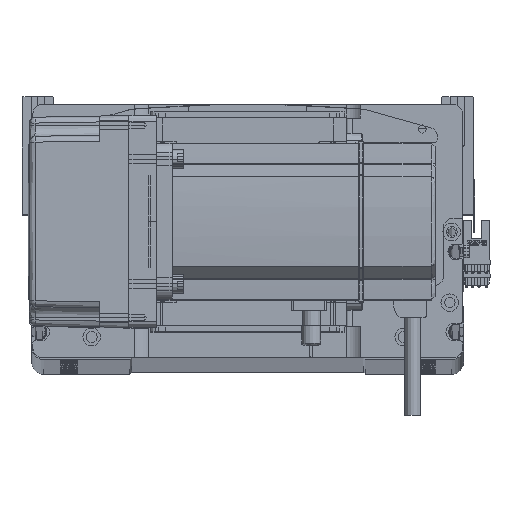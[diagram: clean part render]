
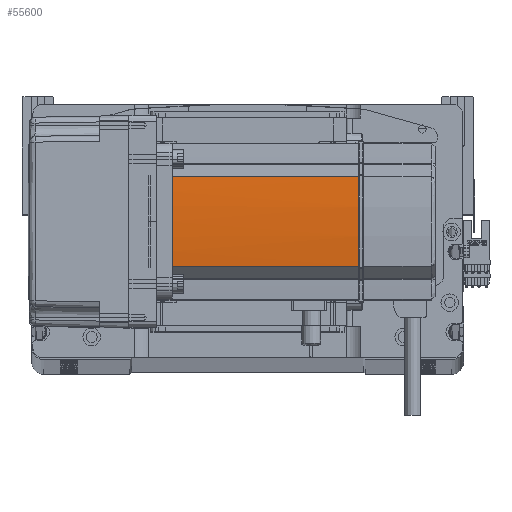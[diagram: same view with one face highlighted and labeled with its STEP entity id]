
A CAD part, top view. The second image highlights one B-rep face of the part: STEP entity #55600.
In plain terms, the highlighted cylindrical face has radius 270 mm (diameter 540 mm), a partial arc.
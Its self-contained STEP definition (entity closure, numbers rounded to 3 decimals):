
#1628 = VERTEX_POINT ( 'NONE', #36819 ) ;
#3647 = DIRECTION ( 'NONE',  ( 0., 0., -1. ) ) ;
#5880 = EDGE_CURVE ( 'NONE', #27970, #33572, #56384, .T. ) ;
#6080 = CARTESIAN_POINT ( 'NONE',  ( 39.042, 22.724, 39. ) ) ;
#6088 = CARTESIAN_POINT ( 'NONE',  ( 40., 0.127, 134. ) ) ;
#8106 = DIRECTION ( 'NONE',  ( -1., 0., 0. ) ) ;
#9847 = CARTESIAN_POINT ( 'NONE',  ( 39.042, -22.724, 58. ) ) ;
#10346 = DIRECTION ( 'NONE',  ( -1., 0., 0. ) ) ;
#10561 = CARTESIAN_POINT ( 'NONE',  ( -230., 0., 39. ) ) ;
#10642 = DIRECTION ( 'NONE',  ( 0., 0., -1. ) ) ;
#12612 = CARTESIAN_POINT ( 'NONE',  ( 40., -0.127, 134. ) ) ;
#13361 = EDGE_CURVE ( 'NONE', #1628, #30984, #26526, .T. ) ;
#15939 = DIRECTION ( 'NONE',  ( -1., 0., 0. ) ) ;
#16713 = CIRCLE ( 'NONE', #59836, 270. ) ;
#19002 = VERTEX_POINT ( 'NONE', #42946 ) ;
#19724 = CIRCLE ( 'NONE', #32229, 270. ) ;
#21244 = EDGE_CURVE ( 'NONE', #40174, #19002, #52894, .T. ) ;
#23039 = EDGE_LOOP ( 'NONE', ( #31486, #37762, #48537, #56208, #35008, #40491 ) ) ;
#24708 = DIRECTION ( 'NONE',  ( 0., 0., -1. ) ) ;
#26526 = B_SPLINE_CURVE_WITH_KNOTS ( 'NONE', 3,
 ( #12612, #26844, #40829, #60948 ),
 .UNSPECIFIED., .F., .F.,
 ( 4, 4 ),
 ( 0., 1. ),
 .UNSPECIFIED. ) ;
#26844 = CARTESIAN_POINT ( 'NONE',  ( 40., -0.042, 134. ) ) ;
#27970 = VERTEX_POINT ( 'NONE', #6080 ) ;
#30984 = VERTEX_POINT ( 'NONE', #6088 ) ;
#31486 = ORIENTED_EDGE ( 'NONE', *, *, #21244, .T. ) ;
#32229 = AXIS2_PLACEMENT_3D ( 'NONE', #10561, #44032, #10346 ) ;
#32412 = CARTESIAN_POINT ( 'NONE',  ( 39.042, -22.724, 134. ) ) ;
#33572 = VERTEX_POINT ( 'NONE', #48201 ) ;
#33718 = CARTESIAN_POINT ( 'NONE',  ( 39.042, 22.724, 58. ) ) ;
#35008 = ORIENTED_EDGE ( 'NONE', *, *, #13361, .F. ) ;
#36819 = CARTESIAN_POINT ( 'NONE',  ( 40., -0.127, 134. ) ) ;
#37762 = ORIENTED_EDGE ( 'NONE', *, *, #53151, .F. ) ;
#39353 = DIRECTION ( 'NONE',  ( -1., 0., 0. ) ) ;
#40174 = VERTEX_POINT ( 'NONE', #32412 ) ;
#40491 = ORIENTED_EDGE ( 'NONE', *, *, #56739, .T. ) ;
#40829 = CARTESIAN_POINT ( 'NONE',  ( 40., 0.042, 134. ) ) ;
#42946 = CARTESIAN_POINT ( 'NONE',  ( 39.042, -22.724, 39. ) ) ;
#44032 = DIRECTION ( 'NONE',  ( 0., 0., -1. ) ) ;
#44760 = CARTESIAN_POINT ( 'NONE',  ( -230., 0., 134. ) ) ;
#48201 = CARTESIAN_POINT ( 'NONE',  ( 39.042, 22.724, 134. ) ) ;
#48537 = ORIENTED_EDGE ( 'NONE', *, *, #5880, .T. ) ;
#48697 = DIRECTION ( 'NONE',  ( 0., 0., 1. ) ) ;
#49078 = CARTESIAN_POINT ( 'NONE',  ( -230., 0., 134. ) ) ;
#49283 = DIRECTION ( 'NONE',  ( 0., 0., -1. ) ) ;
#51270 = EDGE_CURVE ( 'NONE', #33572, #30984, #57877, .T. ) ;
#52847 = AXIS2_PLACEMENT_3D ( 'NONE', #61336, #3647, #8106 ) ;
#52894 = LINE ( 'NONE', #9847, #54416 ) ;
#53151 = EDGE_CURVE ( 'NONE', #27970, #19002, #19724, .T. ) ;
#53310 = CYLINDRICAL_SURFACE ( 'NONE', #52847, 270. ) ;
#54416 = VECTOR ( 'NONE', #24708, 1000. ) ;
#55600 = ADVANCED_FACE ( 'NONE', ( #59412 ), #53310, .T. ) ;
#56208 = ORIENTED_EDGE ( 'NONE', *, *, #51270, .T. ) ;
#56384 = LINE ( 'NONE', #33718, #58656 ) ;
#56739 = EDGE_CURVE ( 'NONE', #1628, #40174, #16713, .T. ) ;
#56865 = AXIS2_PLACEMENT_3D ( 'NONE', #44760, #10642, #15939 ) ;
#57877 = CIRCLE ( 'NONE', #56865, 270. ) ;
#58656 = VECTOR ( 'NONE', #48697, 1000. ) ;
#59412 = FACE_OUTER_BOUND ( 'NONE', #23039, .T. ) ;
#59836 = AXIS2_PLACEMENT_3D ( 'NONE', #49078, #49283, #39353 ) ;
#60948 = CARTESIAN_POINT ( 'NONE',  ( 40., 0.127, 134. ) ) ;
#61336 = CARTESIAN_POINT ( 'NONE',  ( -230., 0., 58. ) ) ;
